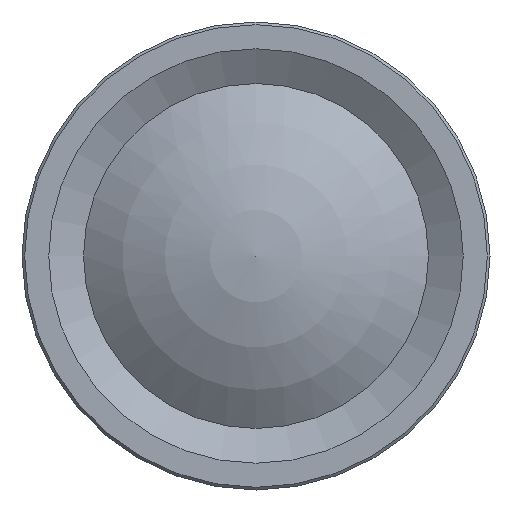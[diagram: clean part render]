
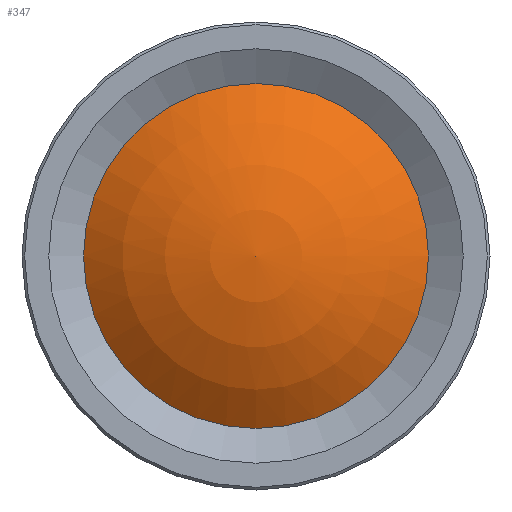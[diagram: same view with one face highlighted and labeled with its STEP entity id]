
A CAD part, left-side view. The second image highlights one B-rep face of the part: STEP entity #347.
In plain terms, the highlighted spherical face has radius 10.471 mm.
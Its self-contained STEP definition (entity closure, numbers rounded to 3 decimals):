
#81=FACE_OUTER_BOUND('',#107,.T.);
#107=EDGE_LOOP('',(#250,#251,#252));
#140=CIRCLE('',#397,6.45);
#141=CIRCLE('',#398,10.471);
#171=VERTEX_POINT('',#588);
#172=VERTEX_POINT('',#590);
#202=EDGE_CURVE('',#171,#171,#140,.T.);
#203=EDGE_CURVE('',#171,#172,#141,.T.);
#250=ORIENTED_EDGE('',*,*,#202,.T.);
#251=ORIENTED_EDGE('',*,*,#203,.T.);
#252=ORIENTED_EDGE('',*,*,#203,.F.);
#346=SPHERICAL_SURFACE('',#396,10.471);
#347=ADVANCED_FACE('',(#81),#346,.T.);
#396=AXIS2_PLACEMENT_3D('',#587,#455,#456);
#397=AXIS2_PLACEMENT_3D('',#589,#457,#458);
#398=AXIS2_PLACEMENT_3D('',#591,#459,#460);
#455=DIRECTION('center_axis',(1.,0.,0.));
#456=DIRECTION('ref_axis',(0.,1.,0.));
#457=DIRECTION('center_axis',(-1.,0.,0.));
#458=DIRECTION('ref_axis',(0.,1.,0.));
#459=DIRECTION('center_axis',(0.,0.,-1.));
#460=DIRECTION('ref_axis',(0.,-1.,0.));
#587=CARTESIAN_POINT('Origin',(1374.039,530.791,0.));
#588=CARTESIAN_POINT('',(1365.79,524.341,0.));
#589=CARTESIAN_POINT('Origin',(1365.79,530.791,0.));
#590=CARTESIAN_POINT('',(1363.568,530.791,0.));
#591=CARTESIAN_POINT('Origin',(1374.039,530.791,0.));
